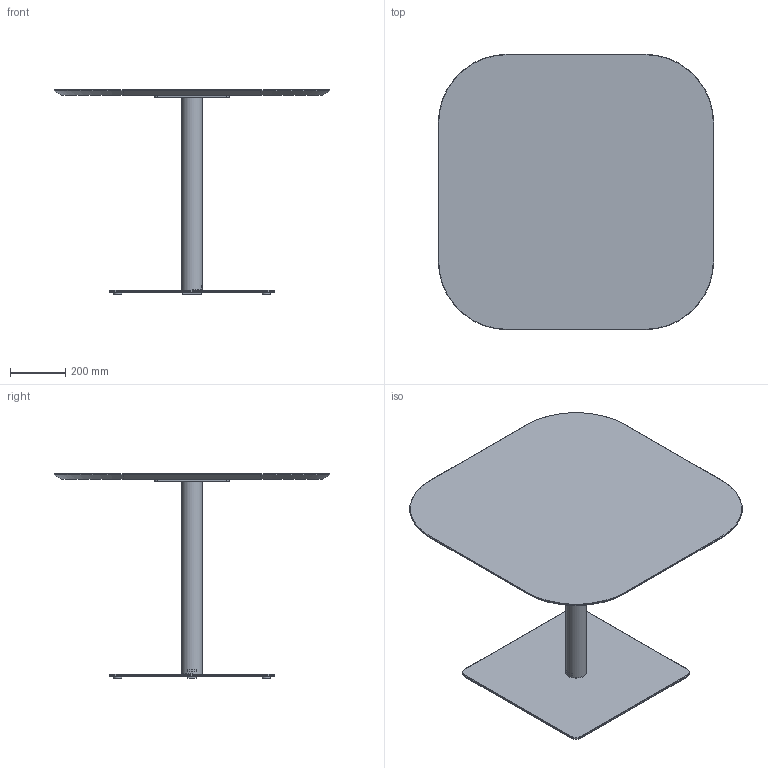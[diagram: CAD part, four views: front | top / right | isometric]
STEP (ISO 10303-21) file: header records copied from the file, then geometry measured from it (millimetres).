
FILE_DESCRIPTION( ('This file contains a STEP AP42 implementation' ,'as created by ZW3D STEP Interface translator.') ,'2;1' );
FILE_NAME( 'Henri - B_Carré - F2 - M5 - 1000 x 1000 x 750.stp' ,'24 912.17 1 4', (''), ('ZWCAD Software Co.'), 'Version 1.0', 'ZW3D to STEP translator', '' );
FILE_SCHEMA(('AUTOMOTIVE_DESIGN { 1 0 10303 214 1 1 1 1 }'));
Length unit declared in the file: millimetre
Products named in the file (14): 0; PIED BISTROT PARAMETRIQUE_; COLONNE ACIER Ø76 V.02_; TUB-D076-02_; PLA-R76B-01_; CROIX ACIER 370 V.02_; CRX-X370-02_; SOCLE ACIER L 600x600 V.02_; SCL-R600-02_; PLA-R30A-01_; PLA-R30A-01; WUERTH 0276063020 Euro-screw 6.3x2 Verzinkt_; PLATEAU BISTROT PARAMETRIQUE_; insert_m6_13_
Assembly tree (22 placements, depth 3):
  0
  PIED BISTROT PARAMETRIQUE_
    COLONNE ACIER Ø76 V.02_
      TUB-D076-02_
      PLA-R76B-01_  x2
    CROIX ACIER 370 V.02_
      CRX-X370-02_
    SOCLE ACIER L 600x600 V.02_
      SCL-R600-02_
      PLA-R30A-01_
      PLA-R30A-01  x3
    WUERTH 0276063020 Euro-screw 6.3x2 Verzinkt_
    PLATEAU BISTROT PARAMETRIQUE_
      insert_m6_13_  x8
Bounding box: 1000 x 1000 x 744 mm (x, y, z)
Volume: 22049016.4 mm3; surface area: 3177840.5 mm2
Topology: 19 solids, 19 shells, 537 faces, 1310 edges, 822 vertices
Faces by surface type: plane 262, bspline 121, cylinder 98, cone 55, torus 1
Full cylindrical faces by diameter (mm): 4.88 x1, 6 x8, 6.3 x1, 8 x45, 12 x2, 14 x2, 30 x4, 72 x1, 76 x1
Entity records: 12310 total; most frequent: CARTESIAN_POINT 3396, ORIENTED_EDGE 1624, DIRECTION 1519, EDGE_CURVE 812, VERTEX_POINT 518, VECTOR 513, LINE 513, AXIS2_PLACEMENT_3D 503
